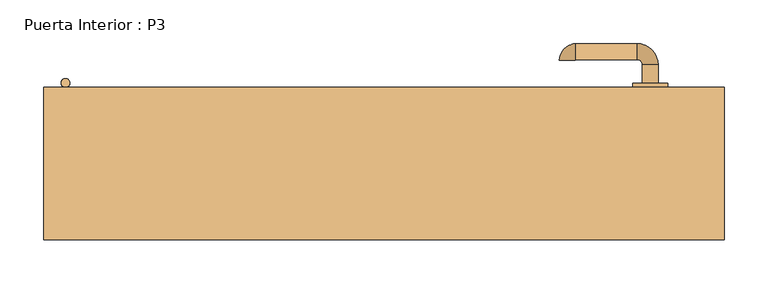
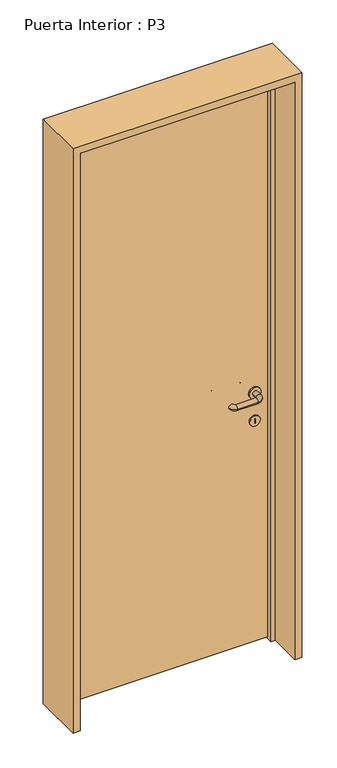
"""IFC4 building model written with IfcOpenShell, lengths in millimetres: door geometry, Puerta Interior : P3."""

from ifc_helpers import new_model, si_unit, point, frame, frame_2d, origin, place, context, project, spatial, polyline, circle_curve, ellipse_curve, trimmed, segment, composite_curve, outline, extrude, faceted_brep, source, transform, mapped, element, save
from ifc_brep_helpers import plane_surface, cylinder_surface, revolved_surface, advanced_brep


def puerta_interior_p3_7086e057(model_context):
    return source(origin(), model_context, "Body", "SolidModel", [
        extrude(outline(composite_curve([segment(trimmed(circle_curve(frame_2d((900.0, 305.0)), 20.0), [point((900.0, 325.0))], [point((900.0, 285.0))], False, "CARTESIAN"), True, "CONTINUOUS"), segment(trimmed(circle_curve(frame_2d((900.0, 305.0)), 20.0), [point((900.0, 285.0))], [point((900.0, 325.0))], False, "CARTESIAN"), True, "CONTINUOUS")], self_intersect=False)), frame((0.0, 42.25, 0.0), z_axis=(0.0, 1.0, 0.0), x_axis=(0.0, 0.0, 1.0)), (0.0, 0.0, 1.0), 5.0),
        advanced_brep(
        [(296.0, 42.25, 900.0), (314.0, 42.25, 900.0), (296.0, 21.25, 900.0), (314.0, 21.25, 900.0), (290.0, -2.75, 900.0), (290.0, 15.25, 900.0), (219.797959, 15.25, 900.0), (219.797959, -2.75, 900.0), (218.797959, 16.25, 900.0), (200.797959, 16.25, 900.0)],
        [
            (0, 1, circle_curve(frame((305.0, 42.25, 900.0), z_axis=(0.0, 1.0, 0.0), x_axis=(1.0, 0.0, 0.0)), 9.0)),
            (1, 0, circle_curve(frame((305.0, 42.25, 900.0), z_axis=(0.0, 1.0, 0.0), x_axis=(1.0, 0.0, 0.0)), 9.0)),
            (0, 2),
            (2, 3, circle_curve(frame((305.0, 21.25, 900.0), z_axis=(0.0, 1.0, 0.0), x_axis=(1.0, 0.0, 0.0)), 9.0)),
            (3, 1),
            (3, 2, circle_curve(frame((305.0, 21.25, 900.0), z_axis=(0.0, 1.0, 0.0), x_axis=(1.0, 0.0, 0.0)), 9.0)),
            (4, 3, circle_curve(frame((290.0, 21.25, 900.0), z_axis=(0.0, 0.0, 1.0), x_axis=(1.0, 0.0, 0.0)), 24.0)),
            (2, 5, circle_curve(frame((290.0, 21.25, 900.0), z_axis=(0.0, 0.0, -1.0), x_axis=(1.0, 0.0, 0.0)), 6.0)),
            (5, 4, circle_curve(frame((290.0, 6.25, 900.0), z_axis=(1.0, 0.0, 0.0), x_axis=(0.0, -1.0, 0.0)), 9.0)),
            (4, 5, circle_curve(frame((290.0, 6.25, 900.0), z_axis=(1.0, 0.0, 0.0), x_axis=(0.0, -1.0, 0.0)), 9.0)),
            (5, 6),
            (6, 7, circle_curve(frame((219.797959, 6.25, 900.0), z_axis=(1.0, 0.0, 0.0), x_axis=(0.0, -1.0, 0.0)), 9.0)),
            (7, 4),
            (7, 6, circle_curve(frame((219.797959, 6.25, 900.0), z_axis=(1.0, 0.0, 0.0), x_axis=(0.0, -1.0, 0.0)), 9.0)),
            (8, 9, circle_curve(frame((209.797959, 16.25, 900.0), z_axis=(0.0, 1.0, 0.0), x_axis=(-1.0, 0.0, 0.0)), 9.0)),
            (9, 8, circle_curve(frame((209.797959, 16.25, 900.0), z_axis=(0.0, 1.0, 0.0), x_axis=(-1.0, 0.0, 0.0)), 9.0)),
            (9, 7, circle_curve(frame((219.797959, 16.25, 900.0), z_axis=(0.0, 0.0, 1.0), x_axis=(0.0, -1.0, 0.0)), 19.0)),
            (6, 8, circle_curve(frame((219.797959, 16.25, 900.0), z_axis=(0.0, 0.0, -1.0), x_axis=(0.0, -1.0, 0.0)), 1.0)),
        ],
        [
            plane_surface(frame((305.0, 42.25, 900.0), z_axis=(0.0, 1.0, 0.0), x_axis=(0.0, 0.0, 1.0))),
            cylinder_surface(frame((305.0, 42.25, 900.0), z_axis=(0.0, 1.0, 0.0), x_axis=(1.0, 0.0, 0.0)), 9.0),
            revolved_surface(trimmed(ellipse_curve(frame((305.0, 21.25, 900.0), z_axis=(0.0, 1.0, 0.0), x_axis=(1.0, 0.0, 0.0)), 9.0, 9.0), [point((296.0, 21.25, 900.0))], [point((314.0, 21.25, 900.0))], True, "CARTESIAN"), (290.0, 21.25, 900.0), (0.0, 0.0, -1.0)),
            revolved_surface(trimmed(ellipse_curve(frame((305.0, 21.25, 900.0), z_axis=(0.0, 1.0, 0.0), x_axis=(1.0, 0.0, 0.0)), 9.0, 9.0), [point((314.0, 21.25, 900.0))], [point((296.0, 21.25, 900.0))], True, "CARTESIAN"), (290.0, 21.25, 900.0), (0.0, 0.0, -1.0)),
            cylinder_surface(frame((290.0, 6.25, 900.0), z_axis=(1.0, 0.0, 0.0), x_axis=(0.0, -1.0, 0.0)), 9.0),
            plane_surface(frame((209.797959, 16.25, 900.0), z_axis=(0.0, 1.0, 0.0), x_axis=(0.0, 0.0, 1.0))),
            revolved_surface(trimmed(ellipse_curve(frame((219.797959, 6.25, 900.0), z_axis=(1.0, 0.0, 0.0), x_axis=(0.0, -1.0, 0.0)), 9.0, 9.0), [point((219.797959, 15.25, 900.0))], [point((219.797959, -2.75, 900.0))], True, "CARTESIAN"), (219.797959, 16.25, 900.0), (0.0, 0.0, -1.0)),
            revolved_surface(trimmed(ellipse_curve(frame((219.797959, 6.25, 900.0), z_axis=(1.0, 0.0, 0.0), x_axis=(0.0, -1.0, 0.0)), 9.0, 9.0), [point((219.797959, -2.75, 900.0))], [point((219.797959, 15.25, 900.0))], True, "CARTESIAN"), (219.797959, 16.25, 900.0), (0.0, 0.0, -1.0)),
        ],
        [
            (0, [[1, 2]]),
            (1, [[-1, 3, 4, 5]]),
            (1, [[-2, -5, 6, -3]]),
            (2, [[7, -4, 8, 9]]),
            (3, [[-8, -6, -7, 10]]),
            (4, [[-9, 11, 12, 13]]),
            (4, [[-10, -13, 14, -11]]),
            (5, [[15, 16]]),
            (6, [[17, -12, 18, -16]]),
            (7, [[-18, -14, -17, -15]]),
        ],
    ),
        extrude(outline(composite_curve([segment(trimmed(circle_curve(frame_2d((900.0, 305.0)), 20.0), [point((900.0, 325.0))], [point((900.0, 285.0))], False, "CARTESIAN"), True, "CONTINUOUS"), segment(trimmed(circle_curve(frame_2d((900.0, 305.0)), 20.0), [point((900.0, 285.0))], [point((900.0, 325.0))], False, "CARTESIAN"), True, "CONTINUOUS")], self_intersect=False)), frame((0.0, 87.25, 0.0), z_axis=(0.0, 1.0, 0.0), x_axis=(0.0, 0.0, 1.0)), (0.0, 0.0, 1.0), 5.0),
        advanced_brep(
        [(296.0, 92.25, 900.0), (314.0, 92.25, 900.0), (314.0, 113.25, 900.0), (296.0, 113.25, 900.0), (290.0, 137.25, 900.0), (290.0, 119.25, 900.0), (219.797959, 137.25, 900.0), (219.797959, 119.25, 900.0), (218.797959, 118.25, 900.0), (200.797959, 118.25, 900.0)],
        [
            (0, 1, circle_curve(frame((305.0, 92.25, 900.0), z_axis=(0.0, -1.0, 0.0), x_axis=(1.0, 0.0, 0.0)), 9.0)),
            (1, 0, circle_curve(frame((305.0, 92.25, 900.0), z_axis=(0.0, -1.0, 0.0), x_axis=(1.0, 0.0, 0.0)), 9.0)),
            (1, 2),
            (2, 3, circle_curve(frame((305.0, 113.25, 900.0), z_axis=(0.0, -1.0, 0.0), x_axis=(1.0, 0.0, 0.0)), 9.0)),
            (3, 0),
            (3, 2, circle_curve(frame((305.0, 113.25, 900.0), z_axis=(0.0, -1.0, 0.0), x_axis=(1.0, 0.0, 0.0)), 9.0)),
            (4, 5, circle_curve(frame((290.0, 128.25, 900.0), z_axis=(1.0, 0.0, 0.0), x_axis=(0.0, 1.0, 0.0)), 9.0)),
            (5, 3, circle_curve(frame((290.0, 113.25, 900.0), z_axis=(0.0, 0.0, -1.0), x_axis=(1.0, 0.0, 0.0)), 6.0)),
            (2, 4, circle_curve(frame((290.0, 113.25, 900.0), z_axis=(0.0, 0.0, 1.0), x_axis=(1.0, 0.0, 0.0)), 24.0)),
            (5, 4, circle_curve(frame((290.0, 128.25, 900.0), z_axis=(1.0, 0.0, 0.0), x_axis=(0.0, 1.0, 0.0)), 9.0)),
            (4, 6),
            (6, 7, circle_curve(frame((219.797959, 128.25, 900.0), z_axis=(1.0, 0.0, 0.0), x_axis=(0.0, 1.0, 0.0)), 9.0)),
            (7, 5),
            (7, 6, circle_curve(frame((219.797959, 128.25, 900.0), z_axis=(1.0, 0.0, 0.0), x_axis=(0.0, 1.0, 0.0)), 9.0)),
            (8, 9, circle_curve(frame((209.797959, 118.25, 900.0), z_axis=(0.0, -1.0, 0.0), x_axis=(-1.0, 0.0, 0.0)), 9.0)),
            (9, 8, circle_curve(frame((209.797959, 118.25, 900.0), z_axis=(0.0, -1.0, 0.0), x_axis=(-1.0, 0.0, 0.0)), 9.0)),
            (8, 7, circle_curve(frame((219.797959, 118.25, 900.0), z_axis=(0.0, 0.0, -1.0), x_axis=(0.0, 1.0, 0.0)), 1.0)),
            (6, 9, circle_curve(frame((219.797959, 118.25, 900.0), z_axis=(0.0, 0.0, 1.0), x_axis=(0.0, 1.0, 0.0)), 19.0)),
        ],
        [
            plane_surface(frame((305.0, 92.25, 900.0), z_axis=(0.0, -1.0, 0.0), x_axis=(0.0, 0.0, 1.0))),
            cylinder_surface(frame((305.0, 92.25, 900.0), z_axis=(0.0, -1.0, 0.0), x_axis=(1.0, 0.0, 0.0)), 9.0),
            revolved_surface(trimmed(ellipse_curve(frame((305.0, 113.25, 900.0), z_axis=(0.0, 1.0, 0.0), x_axis=(1.0, 0.0, 0.0)), 9.0, 9.0), [point((296.0, 113.25, 900.0))], [point((314.0, 113.25, 900.0))], True, "CARTESIAN"), (290.0, 113.25, 900.0), (0.0, 0.0, -1.0)),
            revolved_surface(trimmed(ellipse_curve(frame((305.0, 113.25, 900.0), z_axis=(0.0, 1.0, 0.0), x_axis=(1.0, 0.0, 0.0)), 9.0, 9.0), [point((314.0, 113.25, 900.0))], [point((296.0, 113.25, 900.0))], True, "CARTESIAN"), (290.0, 113.25, 900.0), (0.0, 0.0, -1.0)),
            cylinder_surface(frame((290.0, 128.25, 900.0), z_axis=(1.0, 0.0, 0.0), x_axis=(0.0, 1.0, 0.0)), 9.0),
            plane_surface(frame((209.797959, 118.25, 900.0), z_axis=(0.0, -1.0, 0.0), x_axis=(0.0, 0.0, 1.0))),
            revolved_surface(trimmed(ellipse_curve(frame((219.797959, 128.25, 900.0), z_axis=(-1.0, 0.0, 0.0), x_axis=(0.0, 1.0, 0.0)), 9.0, 9.0), [point((219.797959, 119.25, 900.0))], [point((219.797959, 137.25, 900.0))], True, "CARTESIAN"), (219.797959, 118.25, 900.0), (0.0, 0.0, -1.0)),
            revolved_surface(trimmed(ellipse_curve(frame((219.797959, 128.25, 900.0), z_axis=(-1.0, 0.0, 0.0), x_axis=(0.0, 1.0, 0.0)), 9.0, 9.0), [point((219.797959, 137.25, 900.0))], [point((219.797959, 119.25, 900.0))], True, "CARTESIAN"), (219.797959, 118.25, 900.0), (0.0, 0.0, -1.0)),
        ],
        [
            (0, [[1, 2]]),
            (1, [[3, 4, 5, -2]]),
            (1, [[-5, 6, -3, -1]]),
            (2, [[7, 8, -4, 9]]),
            (3, [[10, -9, -6, -8]]),
            (4, [[11, 12, 13, -7]]),
            (4, [[-13, 14, -11, -10]]),
            (5, [[15, 16]]),
            (6, [[-15, 17, -12, 18]]),
            (7, [[-16, -18, -14, -17]]),
        ],
    ),
        extrude(outline(composite_curve([segment(trimmed(circle_curve(frame_2d((800.0, 305.0)), 18.0), [point((800.0, 323.0))], [point((800.0, 287.0))], False, "CARTESIAN"), True, "CONTINUOUS"), segment(trimmed(circle_curve(frame_2d((800.0, 305.0)), 18.0), [point((800.0, 287.0))], [point((800.0, 323.0))], False, "CARTESIAN"), True, "CONTINUOUS")], self_intersect=False), holes=[polyline([(791.5189471, 305.9764977), (791.5189471, 304.0063037), (807.7059713, 304.0063037), (807.7059713, 305.9764977), (791.5189471, 305.9764977)])]), frame((0.0, 42.25, 0.0), z_axis=(0.0, 1.0, 0.0), x_axis=(0.0, 0.0, 1.0)), (0.0, 0.0, 1.0), 50.0),
        extrude(outline(polyline([(-365.0, 87.25), (365.0, 87.25), (365.0, 47.25), (-365.0, 47.25), (-365.0, 87.25)])), frame((0.0, 0.0, 5.0), z_axis=(0.0, 0.0, 1.0), x_axis=(1.0, 0.0, 0.0)), (0.0, 0.0, 1.0), 2070.0),
        faceted_brep([(365.0, 47.25, 0.0), (365.0, 87.25, 0.0), (390.0, 87.25, 0.0), (390.0, -87.25, 0.0), (365.0, -87.25, 0.0), (365.0, 27.25, 0.0), (350.0, 27.25, 0.0), (350.0, 47.25, 0.0), (365.0, 47.25, 2075.0), (365.0, 87.25, 2075.0), (-365.0, 87.25, 2075.0), (-365.0, 87.25, 0.0), (-390.0, 87.25, 0.0), (-390.0, 87.25, 2100.0), (390.0, 87.25, 2100.0), (390.0, -87.25, 2100.0), (-390.0, -87.25, 2100.0), (-390.0, -87.25, 0.0), (-365.0, -87.25, 0.0), (-365.0, -87.25, 2075.0), (365.0, -87.25, 2075.0), (365.0, 27.25, 2075.0), (-365.0, 27.25, 2075.0), (-365.0, 27.25, 0.0), (-350.0, 27.25, 0.0), (-350.0, 27.25, 2060.0), (350.0, 27.25, 2060.0), (350.0, 47.25, 2060.0), (-350.0, 47.25, 2060.0), (-350.0, 47.25, 0.0), (-365.0, 47.25, 0.0), (-365.0, 47.25, 2075.0)], [[[0, 1, 2, 3, 4, 5, 6, 7]], [[1, 0, 8, 9]], [[2, 1, 9, 10, 11, 12, 13, 14]], [[3, 2, 14, 15]], [[4, 3, 15, 16, 17, 18, 19, 20]], [[5, 4, 20, 21]], [[6, 5, 21, 22, 23, 24, 25, 26]], [[7, 6, 26, 27]], [[0, 7, 27, 28, 29, 30, 31, 8]], [[10, 31, 30, 11]], [[30, 29, 24, 23, 18, 17, 12, 11]], [[16, 13, 12, 17]], [[22, 19, 18, 23]], [[28, 25, 24, 29]], [[9, 8, 31, 10]], [[15, 14, 13, 16]], [[21, 20, 19, 22]], [[27, 26, 25, 28]]]),
        extrude(outline(composite_curve([segment(trimmed(circle_curve(frame_2d((-365.0, 92.25)), 5.0), [point((-365.0, 87.25))], [point((-365.0, 97.25))], False, "CARTESIAN"), True, "CONTINUOUS"), segment(trimmed(circle_curve(frame_2d((-365.0, 92.25)), 5.0), [point((-365.0, 97.25))], [point((-365.0, 87.25))], False, "CARTESIAN"), True, "CONTINUOUS")], self_intersect=False)), frame((0.0, 0.0, 1850.0), z_axis=(0.0, 0.0, 1.0), x_axis=(1.0, 0.0, 0.0)), (0.0, 0.0, 1.0), 100.0),
        extrude(outline(composite_curve([segment(trimmed(circle_curve(frame_2d((-365.0, 92.25)), 5.0), [point((-370.0, 92.25))], [point((-360.0, 92.25))], False, "CARTESIAN"), True, "CONTINUOUS"), segment(trimmed(circle_curve(frame_2d((-365.0, 92.25)), 5.0), [point((-360.0, 92.25))], [point((-370.0, 92.25))], False, "CARTESIAN"), True, "CONTINUOUS")], self_intersect=False)), frame((0.0, 0.0, 980.0), z_axis=(0.0, 0.0, 1.0), x_axis=(1.0, 0.0, 0.0)), (0.0, 0.0, 1.0), 100.0),
        extrude(outline(composite_curve([segment(trimmed(circle_curve(frame_2d((-365.0, 92.25)), 5.0), [point((-365.0, 87.25))], [point((-365.0, 97.25))], False, "CARTESIAN"), True, "CONTINUOUS"), segment(trimmed(circle_curve(frame_2d((-365.0, 92.25)), 5.0), [point((-365.0, 97.25))], [point((-365.0, 87.25))], False, "CARTESIAN"), True, "CONTINUOUS")], self_intersect=False)), frame((0.0, 0.0, 110.0), z_axis=(0.0, 0.0, 1.0), x_axis=(1.0, 0.0, 0.0)), (0.0, 0.0, 1.0), 100.0),
    ])


if __name__ == "__main__":
    model = new_model("IFC4")
    model_context = context("Model", 3, world=origin())
    ifc_project = project(units=[si_unit("LENGTHUNIT", "METRE", prefix="MILLI")], contexts=[model_context])
    site = spatial("IfcSite", under=ifc_project)
    building = spatial("IfcBuilding", under=site)
    placement = place(None, origin())
    puerta_interior_p3_shape = puerta_interior_p3_7086e057(model_context)
    element("IfcDoor", 1, ObjectType="Puerta Interior : P3", at=placement, inside=building, context=model_context, shape_type="MappedRepresentation", body=[
        mapped(puerta_interior_p3_shape, transform((0.0, 0.0, 0.0), x_axis=(1.0, 0.0, 0.0), y_axis=(0.0, 1.0, 0.0), z_axis=(0.0, 0.0, 1.0))),
    ])
    save(model, "model.ifc")
